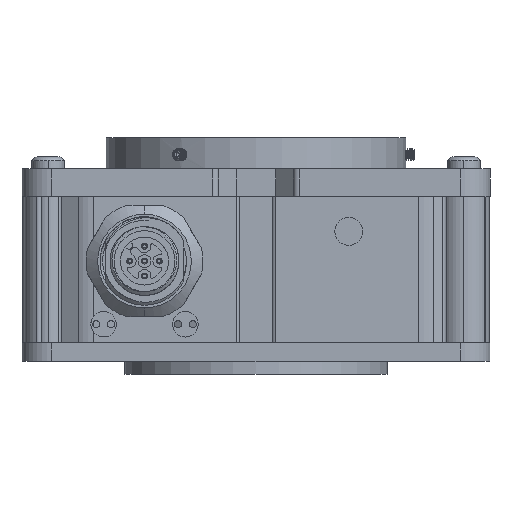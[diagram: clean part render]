
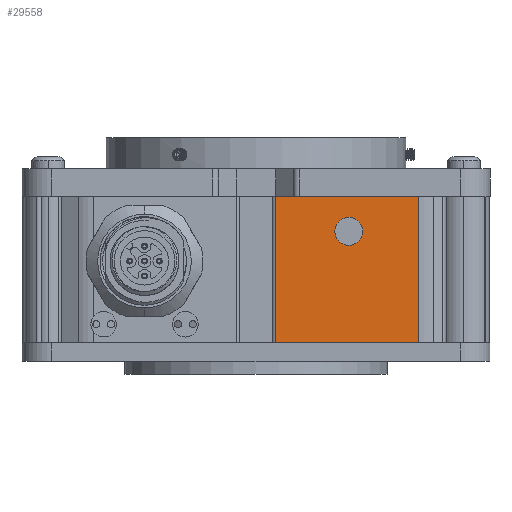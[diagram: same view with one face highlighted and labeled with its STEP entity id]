
A CAD part, left-side view. The second image highlights one B-rep face of the part: STEP entity #29558.
In plain terms, the highlighted planar face has unit normal (-1, 0, 0).
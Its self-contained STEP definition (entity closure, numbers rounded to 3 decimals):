
#327 = DIRECTION ( 'NONE',  ( 0., 1., 0. ) ) ;
#2417 = ORIENTED_EDGE ( 'NONE', *, *, #16004, .F. ) ;
#2857 = DIRECTION ( 'NONE',  ( 0., -1., 0. ) ) ;
#3242 = AXIS2_PLACEMENT_3D ( 'NONE', #32802, #8855, #36808 ) ;
#4402 = CARTESIAN_POINT ( 'NONE',  ( -4.413, 7.684, 0. ) ) ;
#5723 = VERTEX_POINT ( 'NONE', #22641 ) ;
#6366 = DIRECTION ( 'NONE',  ( 0., 0., -1. ) ) ;
#6932 = CIRCLE ( 'NONE', #8406, 2.381 ) ;
#7526 = FACE_OUTER_BOUND ( 'NONE', #41514, .T. ) ;
#7960 = DIRECTION ( 'NONE',  ( 0., -1., 0. ) ) ;
#8406 = AXIS2_PLACEMENT_3D ( 'NONE', #11171, #39110, #15161 ) ;
#8855 = DIRECTION ( 'NONE',  ( -1., 0., 0. ) ) ;
#10429 = EDGE_LOOP ( 'NONE', ( #17465, #17029 ) ) ;
#11171 = CARTESIAN_POINT ( 'NONE',  ( -4.413, 19.625, 19.05 ) ) ;
#13038 = LINE ( 'NONE', #36714, #44878 ) ;
#13269 = LINE ( 'NONE', #50634, #41400 ) ;
#15161 = DIRECTION ( 'NONE',  ( 0., -1., 0. ) ) ;
#15630 = CARTESIAN_POINT ( 'NONE',  ( -4.413, 22.006, 19.05 ) ) ;
#16004 = EDGE_CURVE ( 'NONE', #5723, #25619, #44077, .T. ) ;
#16943 = ORIENTED_EDGE ( 'NONE', *, *, #30740, .T. ) ;
#17029 = ORIENTED_EDGE ( 'NONE', *, *, #29306, .F. ) ;
#17465 = ORIENTED_EDGE ( 'NONE', *, *, #43528, .F. ) ;
#22641 = CARTESIAN_POINT ( 'NONE',  ( -4.413, 7.684, 25. ) ) ;
#23800 = CIRCLE ( 'NONE', #3242, 2.381 ) ;
#23947 = CARTESIAN_POINT ( 'NONE',  ( -4.413, 28., 25. ) ) ;
#24260 = DIRECTION ( 'NONE',  ( 1., 0., 0. ) ) ;
#24296 = AXIS2_PLACEMENT_3D ( 'NONE', #23947, #24260, #327 ) ;
#25619 = VERTEX_POINT ( 'NONE', #4402 ) ;
#26121 = CARTESIAN_POINT ( 'NONE',  ( -4.413, 7.684, 25. ) ) ;
#27893 = CARTESIAN_POINT ( 'NONE',  ( -4.413, 32.1, 0. ) ) ;
#29306 = EDGE_CURVE ( 'NONE', #44184, #33377, #6932, .T. ) ;
#29558 = ADVANCED_FACE ( 'NONE', ( #30038, #7526 ), #48117, .F. ) ;
#29694 = ORIENTED_EDGE ( 'NONE', *, *, #45850, .F. ) ;
#30038 = FACE_BOUND ( 'NONE', #10429, .T. ) ;
#30740 = EDGE_CURVE ( 'NONE', #50697, #36032, #13038, .T. ) ;
#32212 = EDGE_CURVE ( 'NONE', #36032, #25619, #45726, .T. ) ;
#32802 = CARTESIAN_POINT ( 'NONE',  ( -4.413, 19.625, 19.05 ) ) ;
#33377 = VERTEX_POINT ( 'NONE', #51435 ) ;
#33494 = VECTOR ( 'NONE', #6366, 1000. ) ;
#35163 = VECTOR ( 'NONE', #7960, 1000. ) ;
#35910 = CARTESIAN_POINT ( 'NONE',  ( -4.413, 28., 0. ) ) ;
#36032 = VERTEX_POINT ( 'NONE', #27893 ) ;
#36648 = CARTESIAN_POINT ( 'NONE',  ( -4.413, 32.1, 25. ) ) ;
#36714 = CARTESIAN_POINT ( 'NONE',  ( -4.413, 32.1, 25. ) ) ;
#36808 = DIRECTION ( 'NONE',  ( 0., -1., 0. ) ) ;
#39110 = DIRECTION ( 'NONE',  ( -1., 0., 0. ) ) ;
#40746 = DIRECTION ( 'NONE',  ( 0., 0., -1. ) ) ;
#41400 = VECTOR ( 'NONE', #2857, 1000. ) ;
#41514 = EDGE_LOOP ( 'NONE', ( #49411, #2417, #29694, #16943 ) ) ;
#43528 = EDGE_CURVE ( 'NONE', #33377, #44184, #23800, .T. ) ;
#44077 = LINE ( 'NONE', #26121, #33494 ) ;
#44184 = VERTEX_POINT ( 'NONE', #15630 ) ;
#44878 = VECTOR ( 'NONE', #40746, 1000. ) ;
#45726 = LINE ( 'NONE', #35910, #35163 ) ;
#45850 = EDGE_CURVE ( 'NONE', #50697, #5723, #13269, .T. ) ;
#48117 = PLANE ( 'NONE',  #24296 ) ;
#49411 = ORIENTED_EDGE ( 'NONE', *, *, #32212, .T. ) ;
#50634 = CARTESIAN_POINT ( 'NONE',  ( -4.413, 32.1, 25. ) ) ;
#50697 = VERTEX_POINT ( 'NONE', #36648 ) ;
#51435 = CARTESIAN_POINT ( 'NONE',  ( -4.413, 17.244, 19.05 ) ) ;
